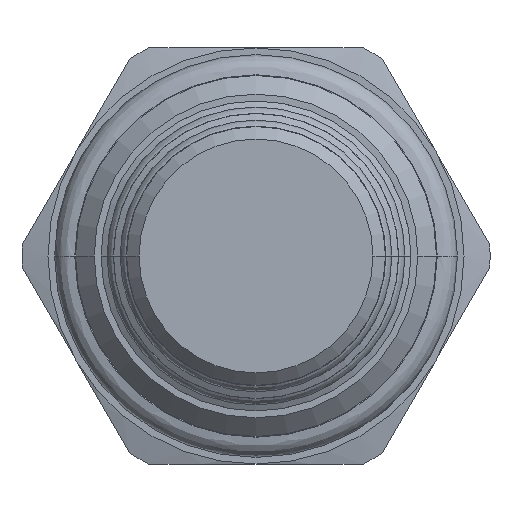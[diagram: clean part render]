
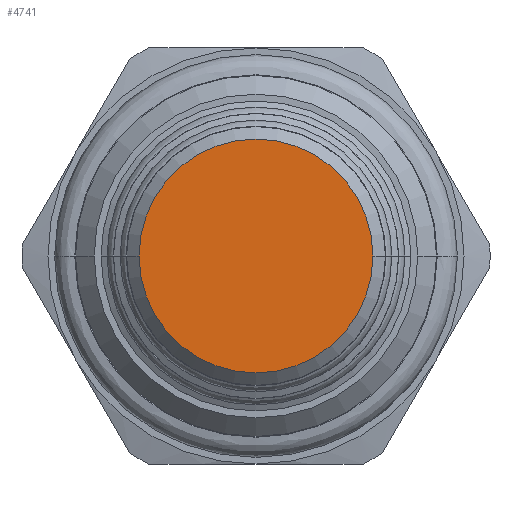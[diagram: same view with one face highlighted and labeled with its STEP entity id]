
A CAD part, front view. The second image highlights one B-rep face of the part: STEP entity #4741.
In plain terms, the highlighted planar face has unit normal (0, -1, 0).
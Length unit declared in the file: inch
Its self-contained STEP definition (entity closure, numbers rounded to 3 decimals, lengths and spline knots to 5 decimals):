
#1918=CARTESIAN_POINT('',(0.,-1.83777,0.));
#1919=DIRECTION('',(0.,1.,0.));
#1920=DIRECTION('',(1.,0.,0.));
#1921=AXIS2_PLACEMENT_3D('',#1918,#1919,#1920);
#1932=CARTESIAN_POINT('',(0.,-1.83777,0.));
#1933=DIRECTION('',(0.,-1.,0.));
#1934=DIRECTION('',(1.,0.,0.));
#1935=AXIS2_PLACEMENT_3D('',#1932,#1933,#1934);
#2041=CARTESIAN_POINT('',(0.281,-1.83777,0.));
#2042=CARTESIAN_POINT('',(-0.281,-1.83777,0.));
#2043=VERTEX_POINT('',#2041);
#2044=VERTEX_POINT('',#2042);
#4732=CARTESIAN_POINT('',(0.,-1.83777,0.));
#4733=DIRECTION('',(0.,1.,0.));
#4734=DIRECTION('',(-1.,0.,0.));
#4735=AXIS2_PLACEMENT_3D('',#4732,#4733,#4734);
#4736=PLANE('',#4735);
#4737=ORIENTED_EDGE('',*,*,#4726,.F.);
#4738=ORIENTED_EDGE('',*,*,#4712,.T.);
#4739=EDGE_LOOP('',(#4737,#4738));
#4740=FACE_OUTER_BOUND('',#4739,.F.);
#4741=ADVANCED_FACE('',(#4740),#4736,.F.);
#1922=CIRCLE('',#1921,0.281);
#1936=CIRCLE('',#1935,0.281);
#4712=EDGE_CURVE('',#2043,#2044,#1922,.T.);
#4726=EDGE_CURVE('',#2043,#2044,#1936,.T.);
